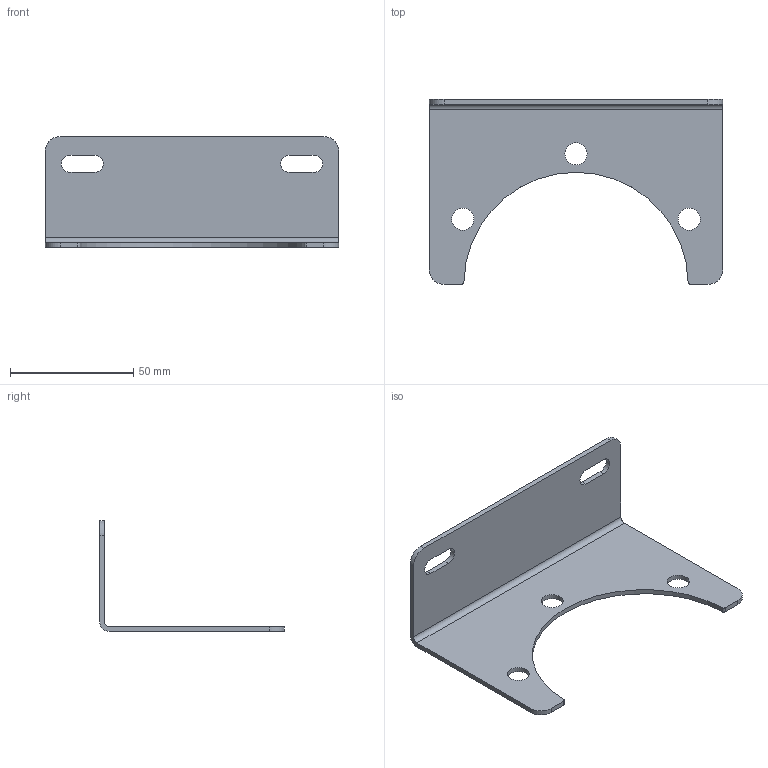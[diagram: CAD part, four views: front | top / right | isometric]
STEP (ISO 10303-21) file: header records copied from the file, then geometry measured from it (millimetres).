
FILE_DESCRIPTION((''),'2;1');
FILE_NAME('F:\AirCom-Produktdokumentation\Befestigungswinkel-Muttern\CAD\CAD AirCom\3D\B-18B57.stp','2007-05-21T14:10:02',('Frank Schroers'),(''),'Autodesk Inventor 2008','Autodesk Inventor 2008','');
FILE_SCHEMA(('AUTOMOTIVE_DESIGN { 1 0 10303 214 1 1 1 1 }'));
Length unit declared in the file: millimetre
Products named in the file (1): B-18B57
Bounding box: 119 x 75 x 45 mm (x, y, z)
Volume: 20395.4 mm3; surface area: 21757.5 mm2
Topology: 1 solids, 1 shells, 29 faces, 81 edges, 54 vertices
Faces by surface type: cylinder 16, plane 13
Full cylindrical faces by diameter (mm): 9 x3
Entity records: 969 total; most frequent: DIRECTION 170, CARTESIAN_POINT 162, ORIENTED_EDGE 156, EDGE_CURVE 78, AXIS2_PLACEMENT_3D 62, VERTEX_POINT 54, VECTOR 46, LINE 46
